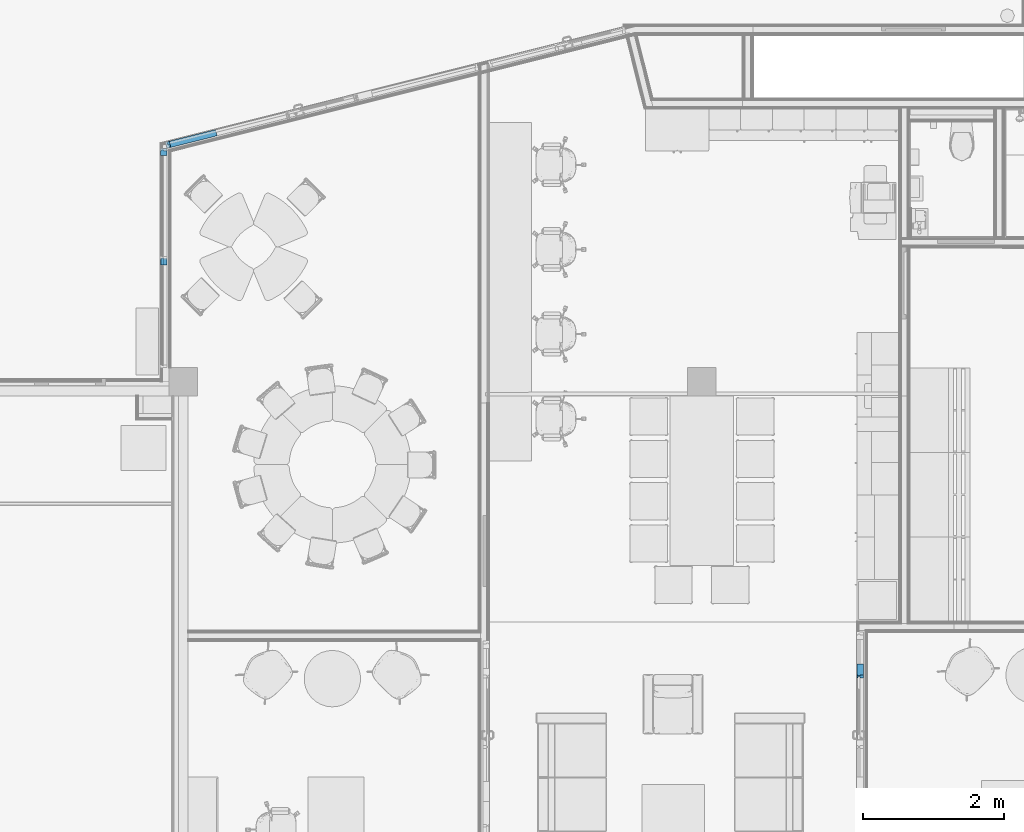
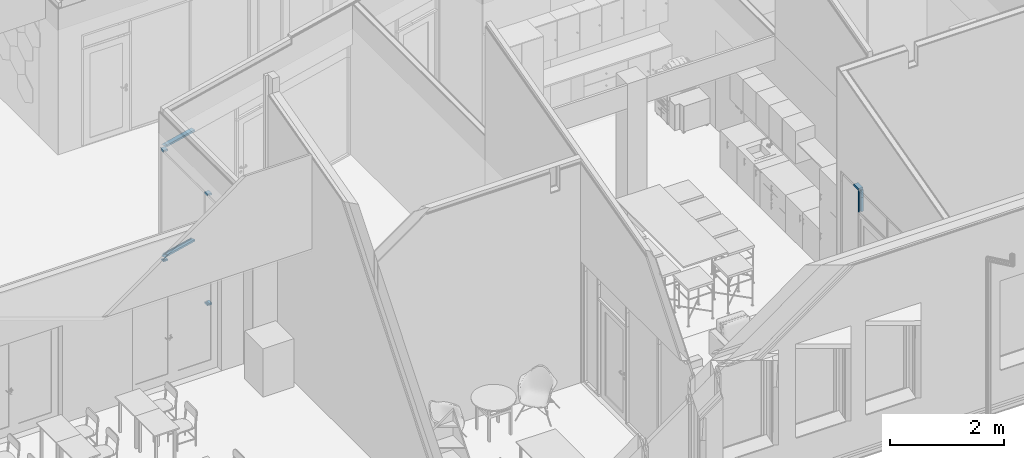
# One storey, part 34 of 153: 11 members, 3 elements without a shape of their own.
"""IFC2X3 building model written with IfcOpenShell, lengths in millimetres."""

from ifc_helpers import new_model, entity, si_unit, converted_unit, derived_unit, money_unit, direction, frame, origin_with_axes, place, context, subcontext, project, spatial, faceted_brep, material, type_object, element, aggregate, save


model = new_model("IFC2X3")

# Units and contexts
model_context = context("Model", 3, precision=0.01, world=origin_with_axes(), true_north=direction((0.0, 1.0)))
body_context = subcontext(model_context, "Body", "Model", "MODEL_VIEW")
ifc_project = project(units=[si_unit("LENGTHUNIT", "METRE", prefix="MILLI"), si_unit("AREAUNIT", "SQUARE_METRE"), si_unit("VOLUMEUNIT", "CUBIC_METRE"), converted_unit("PLANEANGLEUNIT", "DEGREE", entity("IfcPlaneAngleMeasure", 0.0174532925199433), si_unit("PLANEANGLEUNIT", "RADIAN"), dimensions=[0, 0, 0, 0, 0, 0, 0]), money_unit("EUR"), converted_unit("TIMEUNIT", "Year", entity("IfcTimeMeasure", 31557600.0), si_unit("TIMEUNIT", "SECOND"), dimensions=[0, 0, 1, 0, 0, 0, 0]), si_unit("MASSUNIT", "GRAM", prefix="KILO"), si_unit("THERMODYNAMICTEMPERATUREUNIT", "DEGREE_CELSIUS"), si_unit("LUMINOUSINTENSITYUNIT", "LUMEN"), si_unit("ENERGYUNIT", "JOULE", prefix="MEGA"), derived_unit("THERMALCONDUCTANCEUNIT", [(si_unit("POWERUNIT", "WATT"), 1), (si_unit("LENGTHUNIT", "METRE"), -1), (si_unit("THERMODYNAMICTEMPERATUREUNIT", "KELVIN"), -1)]), derived_unit("SPECIFICHEATCAPACITYUNIT", [(si_unit("ENERGYUNIT", "JOULE"), 1), (si_unit("MASSUNIT", "GRAM", prefix="KILO"), -1), (si_unit("THERMODYNAMICTEMPERATUREUNIT", "KELVIN"), -1)]), derived_unit("MASSDENSITYUNIT", [(si_unit("MASSUNIT", "GRAM", prefix="KILO"), 1), (si_unit("VOLUMEUNIT", "CUBIC_METRE"), -1)])], contexts=[model_context])

# Site, building, storey
site_placement = place(None, frame((0.0, 0.0, 8650.0), z_axis=(0.0, 0.0, 1.0), x_axis=(1.0, 0.0, 0.0)))
site = spatial("IfcSite", under=ifc_project, at=site_placement, Name="43301:001:0844", CompositionType="ELEMENT")
building_placement = place(site_placement, origin_with_axes())
building = spatial("IfcBuilding", under=site, at=building_placement, Name="Kuressaare Ametikooli tuulikute mehaanikute õppekorpus", CompositionType="ELEMENT")
storey_placement = place(building_placement, frame((0.0, 0.0, 4100.0), z_axis=(0.0, 0.0, 1.0), x_axis=(1.0, 0.0, 0.0)))
storey = spatial("IfcBuildingStorey", under=building, at=storey_placement, Name="2.korrus", CompositionType="ELEMENT", Elevation=4100.0)

# Curtain wall, member
curtain_wall_type = type_object("IfcCurtainWallType", Name="Curtain Wall Type", PredefinedType="NOTDEFINED")
curtain_wall_1_placement = place(storey_placement, frame((128142.9907946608, 12695.39546179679, 0.0), z_axis=(0.0, 0.0, 1.0), x_axis=(1.0, 0.0, 0.0)))
curtain_wall_1 = element("IfcCurtainWall", 1, at=curtain_wall_1_placement, inside=storey, type_object=curtain_wall_type, Name="PKF-4")
ifc_material = material(Name="Aluminium")
member_type_1 = type_object("IfcMemberType", Name="Boundary Frame 40 x 90", PredefinedType="NOTDEFINED")
member_1_placement = place(curtain_wall_1_placement, frame((0.0, -297.5099905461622, 2600.0), z_axis=(0.0, 1.0, 0.0), x_axis=(0.0, 0.0, 1.0)))
member_1 = element("IfcMember", 2, at=member_1_placement, type_object=member_type_1, material=ifc_material, context=body_context, shape_type="Brep", body=[
    faceted_brep([(-25.00000000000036, 14.99999999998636, 173.4794004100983), (-25.00000000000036, -14.99999999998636, 173.4794004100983), (-40.00000000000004, -14.99999999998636, 173.4794004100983), (-40.00000000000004, -25.00000000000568, 173.4794004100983), (0.0, -25.00000000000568, 173.4794004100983), (0.0, 0.0, 173.4794004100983), (0.0, 64.99999999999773, 173.4794004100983), (-40.00000000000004, 64.99999999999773, 173.4794004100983), (-40.00000000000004, 14.99999999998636, 173.4794004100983), (-25.00000000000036, 14.99999999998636, 0.0), (-25.00000000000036, -14.99999999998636, 0.0), (-40.00000000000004, -14.99999999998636, 0.0), (-40.00000000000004, -25.00000000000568, 0.0), (0.0, -25.00000000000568, 0.0), (0.0, 0.0, 0.0), (0.0, 64.99999999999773, 0.0), (-40.00000000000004, 64.99999999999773, 0.0), (-40.00000000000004, 14.99999999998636, 0.0)], [[[0, 1, 2, 3, 4, 5, 6, 7, 8]], [[1, 0, 9, 10]], [[11, 2, 1, 10]], [[2, 11, 12, 3]], [[13, 4, 3, 12]], [[14, 5, 4, 13]], [[15, 6, 5, 14]], [[16, 7, 6, 15]], [[17, 8, 7, 16]], [[0, 8, 17, 9]], [[9, 17, 16, 15, 14, 13, 12, 11, 10]]]),
])

# Curtain wall, members
curtain_wall_2_placement = place(storey_placement, frame((118271.9466433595, 17776.77433456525, 0.0), z_axis=(0.0, 0.0, 1.0), x_axis=(1.0, 0.0, 0.0)))
curtain_wall_2 = element("IfcCurtainWall", 3, at=curtain_wall_2_placement, inside=storey, type_object=curtain_wall_type, Name="PKF-2.1")
member_2_placement = place(curtain_wall_2_placement, frame((0.0, 2104.143511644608, 0.0), z_axis=(0.0, -1.0, 0.0), x_axis=(0.0, 0.0, 1.0)))
member_2 = element("IfcMember", 4, at=member_2_placement, type_object=member_type_1, material=ifc_material, context=body_context, shape_type="Brep", body=[
    faceted_brep([(25.00000000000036, -15.00000000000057, 98.68864734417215), (25.00000000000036, 15.00000000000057, 98.68864734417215), (40.00000000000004, 15.00000000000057, 98.68864734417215), (40.00000000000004, 25.00000000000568, 98.68864734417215), (0.0, 25.00000000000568, 98.68864734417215), (0.0, 0.0, 98.68864734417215), (0.0, -64.99999999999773, 98.68864734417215), (40.00000000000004, -64.99999999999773, 98.68864734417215), (40.00000000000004, -15.00000000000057, 98.68864734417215), (25.00000000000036, -15.00000000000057, 24.99999999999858), (25.00000000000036, 15.00000000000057, 24.99999999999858), (40.00000000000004, 15.00000000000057, 39.99999999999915), (40.00000000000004, 25.00000000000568, 39.99999999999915), (0.0, 25.00000000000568, 0.0), (0.0, 0.0, 0.0), (0.0, -64.99999999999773, 0.0), (40.00000000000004, -64.99999999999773, 39.99999999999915), (40.00000000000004, -15.00000000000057, 39.99999999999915)], [[[0, 1, 2, 3, 4, 5, 6, 7, 8]], [[1, 0, 9, 10]], [[11, 2, 1, 10]], [[2, 11, 12, 3]], [[4, 3, 12, 13]], [[5, 4, 13, 14]], [[6, 5, 14, 15]], [[7, 6, 15, 16]], [[17, 8, 7, 16]], [[0, 8, 17, 9]], [[9, 17, 16, 15, 14, 13, 12, 11, 10]]]),
])
member_3_placement = place(curtain_wall_2_placement, frame((0.0, 2104.143511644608, 2400.000049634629), z_axis=(0.0, -1.0, 0.0), x_axis=(0.0, 0.0, 1.0)))
member_3 = element("IfcMember", 5, at=member_3_placement, type_object=member_type_1, material=ifc_material, context=body_context, shape_type="Brep", body=[
    faceted_brep([(-25.00000000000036, -15.00000000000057, 98.68864734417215), (-40.00000000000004, -15.00000000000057, 98.68864734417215), (-40.00000000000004, -64.99999999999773, 98.68864734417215), (0.0, -64.99999999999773, 98.68864734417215), (0.0, 0.0, 98.68864734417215), (0.0, 25.00000000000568, 98.68864734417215), (-40.00000000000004, 25.00000000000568, 98.68864734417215), (-40.00000000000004, 15.00000000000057, 98.68864734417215), (-25.00000000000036, 15.00000000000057, 98.68864734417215), (-25.00000000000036, -15.00000000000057, 24.99999999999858), (-40.00000000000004, -15.00000000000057, 39.99999999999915), (-40.00000000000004, -64.99999999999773, 39.99999999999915), (0.0, -64.99999999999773, 0.0), (0.0, 0.0, 0.0), (0.0, 25.00000000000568, 0.0), (-40.00000000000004, 25.00000000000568, 39.99999999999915), (-40.00000000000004, 15.00000000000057, 39.99999999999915), (-25.00000000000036, 15.00000000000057, 24.99999999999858)], [[[0, 1, 2, 3, 4, 5, 6, 7, 8]], [[0, 9, 10, 1]], [[10, 11, 2, 1]], [[2, 11, 12, 3]], [[3, 12, 13, 4]], [[4, 13, 14, 5]], [[5, 14, 15, 6]], [[7, 6, 15, 16]], [[16, 17, 8, 7]], [[8, 17, 9, 0]], [[9, 17, 16, 15, 14, 13, 12, 11, 10]]]),
])
member_4_placement = place(curtain_wall_2_placement, frame((0.0, 550.7080374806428, 2400.000049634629), z_axis=(0.0, -1.0, 0.0), x_axis=(0.0, 0.0, 1.0)))
member_4 = element("IfcMember", 6, at=member_4_placement, type_object=member_type_1, material=ifc_material, context=body_context, shape_type="Brep", body=[
    faceted_brep([(-25.00000000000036, -15.00000000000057, 98.68866965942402), (-40.00000000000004, -15.00000000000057, 98.68866965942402), (-40.00000000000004, -64.99999999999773, 98.68866965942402), (0.0, -64.99999999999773, 98.68866965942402), (0.0, 0.0, 98.68866965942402), (0.0, 25.00000000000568, 98.68866965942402), (-40.00000000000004, 25.00000000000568, 98.68866965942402), (-40.00000000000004, 15.00000000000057, 98.68866965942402), (-25.00000000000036, 15.00000000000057, 98.68866965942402), (-25.00000000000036, -15.00000000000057, 0.0), (-40.00000000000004, -15.00000000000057, 0.0), (-40.00000000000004, -64.99999999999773, 0.0), (0.0, -64.99999999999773, 0.0), (0.0, 0.0, 0.0), (0.0, 25.00000000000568, 0.0), (-40.00000000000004, 25.00000000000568, 0.0), (-40.00000000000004, 15.00000000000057, 0.0), (-25.00000000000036, 15.00000000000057, 0.0)], [[[0, 1, 2, 3, 4, 5, 6, 7, 8]], [[0, 9, 10, 1]], [[10, 11, 2, 1]], [[11, 12, 3, 2]], [[12, 13, 4, 3]], [[13, 14, 5, 4]], [[14, 15, 6, 5]], [[7, 6, 15, 16]], [[16, 17, 8, 7]], [[8, 17, 9, 0]], [[9, 17, 16, 15, 14, 13, 12, 11, 10]]]),
])
member_5_placement = place(curtain_wall_2_placement, frame((0.0, 550.7080374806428, 0.0), z_axis=(0.0, -1.0, 0.0), x_axis=(0.0, 0.0, 1.0)))
member_5 = element("IfcMember", 7, at=member_5_placement, type_object=member_type_1, material=ifc_material, context=body_context, shape_type="Brep", body=[
    faceted_brep([(25.00000000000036, -15.00000000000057, 98.68866965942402), (25.00000000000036, 15.00000000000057, 98.68866965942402), (40.00000000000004, 15.00000000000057, 98.68866965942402), (40.00000000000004, 25.00000000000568, 98.68866965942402), (0.0, 25.00000000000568, 98.68866965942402), (0.0, 0.0, 98.68866965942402), (0.0, -64.99999999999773, 98.68866965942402), (40.00000000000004, -64.99999999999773, 98.68866965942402), (40.00000000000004, -15.00000000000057, 98.68866965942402), (25.00000000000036, -15.00000000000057, 0.0), (25.00000000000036, 15.00000000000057, 0.0), (40.00000000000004, 15.00000000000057, 0.0), (40.00000000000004, 25.00000000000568, 0.0), (0.0, 25.00000000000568, 0.0), (0.0, 0.0, 0.0), (0.0, -64.99999999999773, 0.0), (40.00000000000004, -64.99999999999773, 0.0), (40.00000000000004, -15.00000000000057, 0.0)], [[[0, 1, 2, 3, 4, 5, 6, 7, 8]], [[1, 0, 9, 10]], [[11, 2, 1, 10]], [[2, 11, 12, 3]], [[13, 4, 3, 12]], [[14, 5, 4, 13]], [[15, 6, 5, 14]], [[16, 7, 6, 15]], [[17, 8, 7, 16]], [[0, 8, 17, 9]], [[9, 17, 16, 15, 14, 13, 12, 11, 10]]]),
])
aggregate(curtain_wall_2, [member_2, member_3, member_4, member_5])

curtain_wall_3_placement = place(storey_placement, frame((120547.3158940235, 20502.05468019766, 0.0), z_axis=(0.0, 0.0, 1.0), x_axis=(1.0, 0.0, 0.0)))
curtain_wall_3 = element("IfcCurtainWall", 8, at=curtain_wall_3_placement, inside=storey, type_object=curtain_wall_type, Name="PKF-2.2")
member_6_placement = place(curtain_wall_3_placement, frame((-2170.321627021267, -544.0857149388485, 2400.000049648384), z_axis=(-0.9699839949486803, -0.2431687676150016, 0.0), x_axis=(0.0, 0.0, 1.0)))
member_6 = element("IfcMember", 9, at=member_6_placement, type_object=member_type_1, material=ifc_material, context=body_context, shape_type="Brep", body=[
    faceted_brep([(-25.00000000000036, -14.99999999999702, 32.57783948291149), (-40.00000000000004, -14.99999999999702, 17.57783948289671), (-40.00000000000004, -64.99999999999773, 17.57783948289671), (0.0, -64.99999999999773, 57.57783948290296), (0.0, 0.0, 57.57783948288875), (0.0, 25.00000000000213, 57.57783948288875), (-40.00000000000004, 25.00000000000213, 17.57783948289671), (-40.00000000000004, 15.00000000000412, 17.57783948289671), (-25.00000000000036, 15.00000000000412, 32.57783948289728), (-25.00000000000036, -15.00000000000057, 0.0), (-40.00000000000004, -15.00000000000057, 0.0), (-40.00000000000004, -65.00000000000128, 0.0), (0.0, -65.00000000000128, 0.0), (0.0, 0.0, 0.0), (0.0, 24.99999999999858, 0.0), (-40.00000000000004, 24.99999999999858, 0.0), (-40.00000000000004, 14.99999999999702, 0.0), (-25.00000000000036, 14.99999999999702, 0.0)], [[[0, 1, 2, 3, 4, 5, 6, 7, 8]], [[0, 9, 10, 1]], [[10, 11, 2, 1]], [[11, 12, 3, 2]], [[12, 13, 4, 3]], [[13, 14, 5, 4]], [[14, 15, 6, 5]], [[7, 6, 15, 16]], [[16, 17, 8, 7]], [[8, 17, 9, 0]], [[9, 17, 16, 15, 14, 13, 12, 11, 10]]]),
])
member_7_placement = place(curtain_wall_3_placement, frame((-2170.321627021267, -544.0857149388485, 0.0), z_axis=(-0.9699839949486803, -0.2431687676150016, 0.0), x_axis=(0.0, 0.0, 1.0)))
member_7 = element("IfcMember", 10, at=member_7_placement, type_object=member_type_1, material=ifc_material, context=body_context, shape_type="Brep", body=[
    faceted_brep([(25.00000000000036, -14.99999999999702, 32.57783948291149), (25.00000000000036, 15.00000000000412, 32.57783948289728), (40.00000000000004, 15.00000000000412, 17.57783948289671), (40.00000000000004, 25.00000000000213, 17.57783948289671), (0.0, 25.00000000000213, 57.57783948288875), (0.0, 0.0, 57.57783948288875), (0.0, -64.99999999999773, 57.57783948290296), (40.00000000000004, -64.99999999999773, 17.57783948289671), (40.00000000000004, -14.99999999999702, 17.57783948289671), (25.00000000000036, -15.00000000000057, 0.0), (25.00000000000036, 14.99999999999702, 0.0), (40.00000000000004, 14.99999999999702, 0.0), (40.00000000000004, 24.99999999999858, 0.0), (0.0, 24.99999999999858, 0.0), (0.0, 0.0, 0.0), (0.0, -65.00000000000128, 0.0), (40.00000000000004, -65.00000000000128, 0.0), (40.00000000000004, -15.00000000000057, 0.0)], [[[0, 1, 2, 3, 4, 5, 6, 7, 8]], [[1, 0, 9, 10]], [[11, 2, 1, 10]], [[2, 11, 12, 3]], [[13, 4, 3, 12]], [[14, 5, 4, 13]], [[15, 6, 5, 14]], [[16, 7, 6, 15]], [[17, 8, 7, 16]], [[0, 8, 17, 9]], [[9, 17, 16, 15, 14, 13, 12, 11, 10]]]),
])
member_8_placement = place(curtain_wall_3_placement, frame((-1515.289209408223, -379.8732881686, 0.0), z_axis=(-0.9699839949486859, -0.2431687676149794, 0.0), x_axis=(0.0, 0.0, 1.0)))
member_8 = element("IfcMember", 11, at=member_8_placement, type_object=member_type_1, material=ifc_material, context=body_context, shape_type="Brep", body=[
    faceted_brep([(25.00000000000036, -14.99999999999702, 675.3022947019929), (25.00000000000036, 15.00000000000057, 675.3022947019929), (40.00000000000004, 15.00000000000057, 675.3022947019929), (40.00000000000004, 24.99999999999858, 675.3022947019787), (0.0, 24.99999999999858, 675.3022947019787), (0.0, 0.0, 675.3022947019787), (0.0, -64.99999999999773, 675.3022947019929), (40.00000000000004, -64.99999999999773, 675.3022947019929), (40.00000000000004, -14.99999999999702, 675.3022947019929), (25.00000000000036, -14.99999999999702, 0.0), (25.00000000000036, 14.99999999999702, 0.0), (40.00000000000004, 14.99999999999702, 0.0), (40.00000000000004, 24.99999999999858, 0.0), (0.0, 24.99999999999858, 0.0), (0.0, 0.0, 0.0), (0.0, -64.99999999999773, 0.0), (40.00000000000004, -64.99999999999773, 0.0), (40.00000000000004, -14.99999999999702, 0.0)], [[[0, 1, 2, 3, 4, 5, 6, 7, 8]], [[1, 0, 9, 10]], [[11, 2, 1, 10]], [[2, 11, 12, 3]], [[13, 4, 3, 12]], [[14, 5, 4, 13]], [[15, 6, 5, 14]], [[16, 7, 6, 15]], [[17, 8, 7, 16]], [[0, 8, 17, 9]], [[9, 17, 16, 15, 14, 13, 12, 11, 10]]]),
])
member_9_placement = place(curtain_wall_3_placement, frame((-1515.289209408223, -379.8732881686, 2400.000049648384), z_axis=(-0.9699839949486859, -0.2431687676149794, 0.0), x_axis=(0.0, 0.0, 1.0)))
member_9 = element("IfcMember", 12, at=member_9_placement, type_object=member_type_1, material=ifc_material, context=body_context, shape_type="Brep", body=[
    faceted_brep([(-25.00000000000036, -14.99999999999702, 675.3022947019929), (-40.00000000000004, -14.99999999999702, 675.3022947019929), (-40.00000000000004, -64.99999999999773, 675.3022947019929), (0.0, -64.99999999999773, 675.3022947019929), (0.0, 0.0, 675.3022947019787), (0.0, 24.99999999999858, 675.3022947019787), (-40.00000000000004, 24.99999999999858, 675.3022947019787), (-40.00000000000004, 15.00000000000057, 675.3022947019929), (-25.00000000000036, 15.00000000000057, 675.3022947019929), (-25.00000000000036, -14.99999999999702, 0.0), (-40.00000000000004, -14.99999999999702, 0.0), (-40.00000000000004, -64.99999999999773, 0.0), (0.0, -64.99999999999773, 0.0), (0.0, 0.0, 0.0), (0.0, 24.99999999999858, 0.0), (-40.00000000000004, 24.99999999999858, 0.0), (-40.00000000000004, 14.99999999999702, 0.0), (-25.00000000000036, 14.99999999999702, 0.0)], [[[0, 1, 2, 3, 4, 5, 6, 7, 8]], [[0, 9, 10, 1]], [[10, 11, 2, 1]], [[11, 12, 3, 2]], [[12, 13, 4, 3]], [[13, 14, 5, 4]], [[14, 15, 6, 5]], [[7, 6, 15, 16]], [[16, 17, 8, 7]], [[8, 17, 9, 0]], [[9, 17, 16, 15, 14, 13, 12, 11, 10]]]),
])
aggregate(curtain_wall_3, [member_6, member_7, member_8, member_9])

# Member
member_type_2 = type_object("IfcMemberType", Name="Mullion Frame 40 x 90", PredefinedType="NOTDEFINED")
member_10_placement = place(curtain_wall_1_placement, frame((0.0, -297.50999589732, 2099.999978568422), z_axis=(0.0, 4.852791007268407e-08, 0.9999999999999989), x_axis=(0.0, -0.9999999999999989, 4.852791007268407e-08)))
member_10 = element("IfcMember", 13, at=member_10_placement, type_object=member_type_2, material=ifc_material, context=body_context, shape_type="Brep", body=[
    faceted_brep([(-4.99998544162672, 14.99999999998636, 300.0000235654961), (-4.99998544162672, -14.99999999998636, 300.0000235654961), (-19.99998544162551, -14.99999999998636, 300.0000242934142), (-19.99998544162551, -25.00000000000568, 300.0000242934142), (20.00001455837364, -25.00000000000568, 300.0000223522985), (20.00001455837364, -14.99999999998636, 300.0000223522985), (5.000014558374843, -14.99999999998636, 300.0000230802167), (5.000014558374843, 14.99999999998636, 300.0000230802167), (20.00001455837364, 14.99999999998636, 300.0000223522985), (20.00001455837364, 64.99999999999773, 300.0000223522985), (-19.99998544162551, 64.99999999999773, 300.0000242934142), (-19.99998544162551, 14.99999999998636, 300.0000242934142), (-5.000000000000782, 14.99999999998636, -7.279181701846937e-07), (-5.000000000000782, -14.99999999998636, -7.279181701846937e-07), (-19.99999999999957, -14.99999999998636, 0.0), (-19.99999999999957, -25.00000000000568, 0.0), (19.99999999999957, -25.00000000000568, -1.941115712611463e-06), (19.99999999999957, -14.99999999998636, -1.941115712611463e-06), (5.000000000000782, -14.99999999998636, -1.213197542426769e-06), (5.000000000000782, 14.99999999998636, -1.213197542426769e-06), (19.99999999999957, 14.99999999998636, -1.941115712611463e-06), (19.99999999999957, 64.99999999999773, -1.941115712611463e-06), (-19.99999999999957, 64.99999999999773, 0.0), (-19.99999999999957, 14.99999999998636, 0.0)], [[[0, 1, 2, 3, 4, 5, 6, 7, 8, 9, 10, 11]], [[0, 12, 13, 1]], [[1, 13, 14, 2]], [[14, 15, 3, 2]], [[3, 15, 16, 4]], [[17, 5, 4, 16]], [[5, 17, 18, 6]], [[7, 6, 18, 19]], [[8, 7, 19, 20]], [[8, 20, 21, 9]], [[9, 21, 22, 10]], [[11, 10, 22, 23]], [[11, 23, 12, 0]], [[13, 12, 23, 22, 21, 20, 19, 18, 17, 16, 15, 14]]]),
])

member_11_placement = place(curtain_wall_1_placement, frame((0.0, -297.5099813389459, 2400.0), z_axis=(0.0, -4.60360816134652e-08, 0.999999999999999), x_axis=(0.0, -0.999999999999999, -4.60360816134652e-08)))
member_11 = element("IfcMember", 14, at=member_11_placement, type_object=member_type_2, material=ifc_material, context=body_context, shape_type="Brep", body=[
    faceted_brep([(-5.00000736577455, 14.99999999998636, 159.9999990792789), (-5.00000736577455, -14.99999999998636, 160.0000004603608), (-20.00000736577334, -14.99999999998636, 159.9999997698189), (-20.00000736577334, -25.00000000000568, 160.0000002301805), (19.9999926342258, -25.00000000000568, 160.0000020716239), (19.9999926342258, -14.99999999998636, 160.0000016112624), (4.999992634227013, -14.99999999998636, 160.0000009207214), (4.999992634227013, 14.99999999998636, 159.9999995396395), (19.9999926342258, 14.99999999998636, 160.0000002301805), (19.9999926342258, 64.99999999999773, 159.9999979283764), (-20.00000736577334, 64.99999999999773, 159.9999960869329), (-20.00000736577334, 14.99999999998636, 159.999998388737), (-5.000000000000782, 14.99999999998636, -2.121460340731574e-06), (-5.000000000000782, -14.99999999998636, -2.121460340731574e-06), (-19.99999999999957, -14.99999999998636, -2.812002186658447e-06), (-19.99999999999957, -25.00000000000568, -2.812002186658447e-06), (19.99999999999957, -25.00000000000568, -9.705587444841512e-07), (19.99999999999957, -14.99999999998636, -9.705587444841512e-07), (5.000000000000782, -14.99999999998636, -1.661099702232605e-06), (5.000000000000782, 14.99999999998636, -1.661099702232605e-06), (19.99999999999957, 14.99999999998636, -9.705587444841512e-07), (19.99999999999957, 64.99999999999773, -9.705587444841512e-07), (-19.99999999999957, 64.99999999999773, -2.812002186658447e-06), (-19.99999999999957, 14.99999999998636, -2.812002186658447e-06)], [[[0, 1, 2, 3, 4, 5, 6, 7, 8, 9, 10, 11]], [[0, 12, 13, 1]], [[1, 13, 14, 2]], [[14, 15, 3, 2]], [[3, 15, 16, 4]], [[17, 5, 4, 16]], [[5, 17, 18, 6]], [[7, 6, 18, 19]], [[8, 7, 19, 20]], [[8, 20, 21, 9]], [[9, 21, 22, 10]], [[11, 10, 22, 23]], [[11, 23, 12, 0]], [[13, 12, 23, 22, 21, 20, 19, 18, 17, 16, 15, 14]]]),
])

aggregate(curtain_wall_1, [member_1, member_10, member_11])

save(model, "model.ifc")
